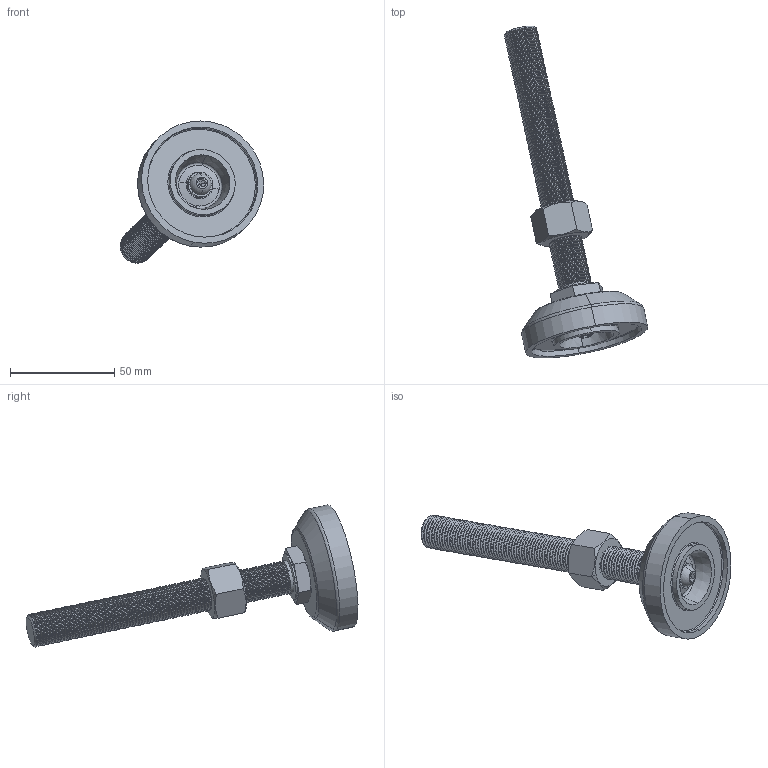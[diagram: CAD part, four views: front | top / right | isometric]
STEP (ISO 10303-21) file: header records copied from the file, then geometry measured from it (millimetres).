
FILE_DESCRIPTION (( 'STEP AP203' ), '1' );
FILE_NAME ('5.24.60.16.160.STEP', '2014-05-20T06:17:14', ( 'USER' ), ( 'Microsoft' ), 'SwSTEP 2.0', 'SolidWorks 2012', '' );
FILE_SCHEMA (( 'CONFIG_CONTROL_DESIGN' ));
Length unit declared in the file: millimetre
Products named in the file (7): 5.24.60.16.160; Plain washers--Product grade C GB_GB_FASTENER_WASHER_SMWC 6; Hexagon socket button head screws GB_GB_SOCKET_TYPE7 M6X20-N; hexagon nuts grade c gb_GB_FASTENER_NUT_SNC1 M16-N; ￠60金属微调支脚脚垫; 130mm-M16支金属微调脚螺杆; M6蹟隊踢扽杶
Assembly tree (6 placements, depth 2):
  5.24.60.16.160
    M6蹟隊踢扽杶
    130mm-M16支金属微调脚螺杆
    ￠60金属微调支脚脚垫
    hexagon nuts grade c gb_GB_FASTENER_NUT_SNC1 M16-N
    Hexagon socket button head screws GB_GB_SOCKET_TYPE7 M6X20-N
    Plain washers--Product grade C GB_GB_FASTENER_WASHER_SMWC 6
Bounding box: 68.96 x 159.57 x 68.3 mm (x, y, z)
Volume: 69407.1 mm3; surface area: 25400.5 mm2
Topology: 6 solids, 6 shells, 951 faces, 1918 edges, 984 vertices
Faces by surface type: torus 354, cone 354, cylinder 194, plane 41, sphere 8
Entity records: 25209 total; most frequent: DIRECTION 5138, CARTESIAN_POINT 3992, ORIENTED_EDGE 3832, AXIS2_PLACEMENT_3D 2274, EDGE_CURVE 1916, CIRCLE 1314, VERTEX_POINT 984, EDGE_LOOP 966
